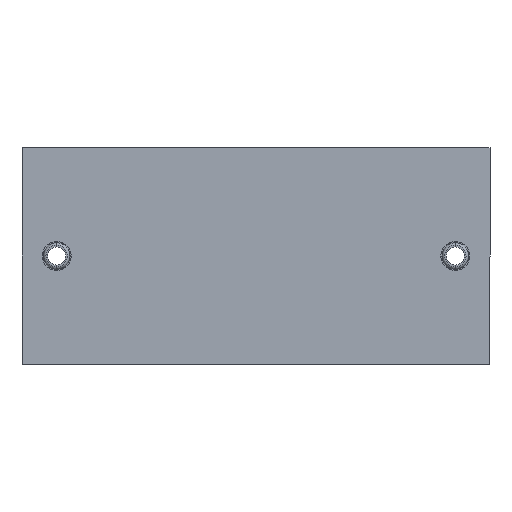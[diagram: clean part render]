
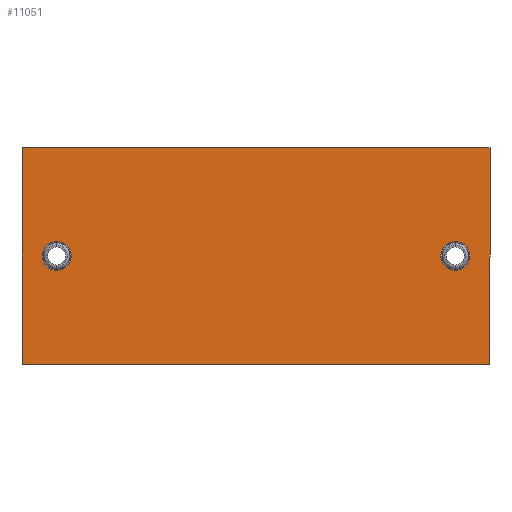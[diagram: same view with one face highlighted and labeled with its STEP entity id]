
A CAD part, front view. The second image highlights one B-rep face of the part: STEP entity #11051.
In plain terms, the highlighted planar face has unit normal (0, -1, 0).
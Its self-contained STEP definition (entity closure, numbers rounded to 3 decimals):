
#451 = AXIS2_PLACEMENT_3D ( 'NONE', #467, #6699, #2895 ) ;
#467 = CARTESIAN_POINT ( 'NONE',  ( 8., 0., -25. ) ) ;
#690 = VERTEX_POINT ( 'NONE', #11788 ) ;
#1044 = DIRECTION ( 'NONE',  ( 0., 0., -1. ) ) ;
#1309 = EDGE_CURVE ( 'NONE', #16003, #13143, #15568, .T. ) ;
#1365 = EDGE_LOOP ( 'NONE', ( #7175, #15301, #2685, #12943 ) ) ;
#1625 = LINE ( 'NONE', #16004, #10777 ) ;
#1855 = CARTESIAN_POINT ( 'NONE',  ( 0., 0., 0. ) ) ;
#2330 = VERTEX_POINT ( 'NONE', #15645 ) ;
#2685 = ORIENTED_EDGE ( 'NONE', *, *, #16138, .F. ) ;
#2895 = DIRECTION ( 'NONE',  ( 0., 0., -1. ) ) ;
#3077 = CARTESIAN_POINT ( 'NONE',  ( 8., 0., -25. ) ) ;
#3241 = DIRECTION ( 'NONE',  ( 0., -1., 0. ) ) ;
#3399 = CARTESIAN_POINT ( 'NONE',  ( 0., 0., 0. ) ) ;
#3718 = CARTESIAN_POINT ( 'NONE',  ( 100., 0., -28.35 ) ) ;
#4332 = DIRECTION ( 'NONE',  ( 0., 0., -1. ) ) ;
#4522 = EDGE_CURVE ( 'NONE', #690, #13671, #7848, .T. ) ;
#4547 = EDGE_CURVE ( 'NONE', #8803, #6188, #7440, .T. ) ;
#4584 = AXIS2_PLACEMENT_3D ( 'NONE', #8217, #3241, #11998 ) ;
#4615 = EDGE_CURVE ( 'NONE', #6188, #8803, #5508, .T. ) ;
#4841 = ORIENTED_EDGE ( 'NONE', *, *, #4615, .T. ) ;
#5032 = VERTEX_POINT ( 'NONE', #8752 ) ;
#5508 = CIRCLE ( 'NONE', #9678, 3.35 ) ;
#6025 = VECTOR ( 'NONE', #13420, 1000. ) ;
#6188 = VERTEX_POINT ( 'NONE', #11892 ) ;
#6635 = FACE_OUTER_BOUND ( 'NONE', #1365, .T. ) ;
#6699 = DIRECTION ( 'NONE',  ( 0., -1., 0. ) ) ;
#6715 = DIRECTION ( 'NONE',  ( 0., 0., -1. ) ) ;
#7027 = FACE_BOUND ( 'NONE', #10259, .T. ) ;
#7063 = CARTESIAN_POINT ( 'NONE',  ( 8., 0., -28.35 ) ) ;
#7175 = ORIENTED_EDGE ( 'NONE', *, *, #10532, .F. ) ;
#7440 = CIRCLE ( 'NONE', #15490, 3.35 ) ;
#7555 = DIRECTION ( 'NONE',  ( -1., 0., 0. ) ) ;
#7737 = DIRECTION ( 'NONE',  ( 0., 1., 0. ) ) ;
#7848 = LINE ( 'NONE', #8365, #14149 ) ;
#7872 = DIRECTION ( 'NONE',  ( 0., 1., 0. ) ) ;
#8217 = CARTESIAN_POINT ( 'NONE',  ( 0., 0., 0. ) ) ;
#8365 = CARTESIAN_POINT ( 'NONE',  ( 0., 0., -50. ) ) ;
#8594 = CARTESIAN_POINT ( 'NONE',  ( 8., 0., -21.65 ) ) ;
#8732 = ORIENTED_EDGE ( 'NONE', *, *, #15406, .F. ) ;
#8752 = CARTESIAN_POINT ( 'NONE',  ( 0., 0., 0. ) ) ;
#8803 = VERTEX_POINT ( 'NONE', #3718 ) ;
#8917 = EDGE_LOOP ( 'NONE', ( #10885, #8732 ) ) ;
#9370 = LINE ( 'NONE', #3399, #6025 ) ;
#9470 = AXIS2_PLACEMENT_3D ( 'NONE', #3077, #11829, #4332 ) ;
#9678 = AXIS2_PLACEMENT_3D ( 'NONE', #14258, #7872, #6715 ) ;
#9965 = FACE_BOUND ( 'NONE', #8917, .T. ) ;
#10259 = EDGE_LOOP ( 'NONE', ( #16120, #4841 ) ) ;
#10532 = EDGE_CURVE ( 'NONE', #13671, #5032, #9370, .T. ) ;
#10590 = CARTESIAN_POINT ( 'NONE',  ( 100., 0., -25. ) ) ;
#10706 = PLANE ( 'NONE',  #4584 ) ;
#10777 = VECTOR ( 'NONE', #1044, 1000. ) ;
#10791 = LINE ( 'NONE', #1855, #14148 ) ;
#10885 = ORIENTED_EDGE ( 'NONE', *, *, #1309, .F. ) ;
#11032 = CARTESIAN_POINT ( 'NONE',  ( 0., 0., -50. ) ) ;
#11051 = ADVANCED_FACE ( 'NONE', ( #7027, #9965, #6635 ), #10706, .T. ) ;
#11788 = CARTESIAN_POINT ( 'NONE',  ( 108., 0., -50. ) ) ;
#11829 = DIRECTION ( 'NONE',  ( 0., -1., 0. ) ) ;
#11877 = DIRECTION ( 'NONE',  ( 1., 0., 0. ) ) ;
#11892 = CARTESIAN_POINT ( 'NONE',  ( 100., 0., -21.65 ) ) ;
#11993 = CIRCLE ( 'NONE', #9470, 3.35 ) ;
#11998 = DIRECTION ( 'NONE',  ( 0., 0., -1. ) ) ;
#12943 = ORIENTED_EDGE ( 'NONE', *, *, #15434, .F. ) ;
#13143 = VERTEX_POINT ( 'NONE', #8594 ) ;
#13420 = DIRECTION ( 'NONE',  ( 0., 0., 1. ) ) ;
#13671 = VERTEX_POINT ( 'NONE', #11032 ) ;
#14148 = VECTOR ( 'NONE', #11877, 1000. ) ;
#14149 = VECTOR ( 'NONE', #7555, 1000. ) ;
#14187 = DIRECTION ( 'NONE',  ( 0., 0., -1. ) ) ;
#14258 = CARTESIAN_POINT ( 'NONE',  ( 100., 0., -25. ) ) ;
#15301 = ORIENTED_EDGE ( 'NONE', *, *, #4522, .F. ) ;
#15406 = EDGE_CURVE ( 'NONE', #13143, #16003, #11993, .T. ) ;
#15434 = EDGE_CURVE ( 'NONE', #5032, #2330, #10791, .T. ) ;
#15490 = AXIS2_PLACEMENT_3D ( 'NONE', #10590, #7737, #14187 ) ;
#15568 = CIRCLE ( 'NONE', #451, 3.35 ) ;
#15645 = CARTESIAN_POINT ( 'NONE',  ( 108., 0., 0. ) ) ;
#16003 = VERTEX_POINT ( 'NONE', #7063 ) ;
#16004 = CARTESIAN_POINT ( 'NONE',  ( 108., 0., 0. ) ) ;
#16120 = ORIENTED_EDGE ( 'NONE', *, *, #4547, .T. ) ;
#16138 = EDGE_CURVE ( 'NONE', #2330, #690, #1625, .T. ) ;
